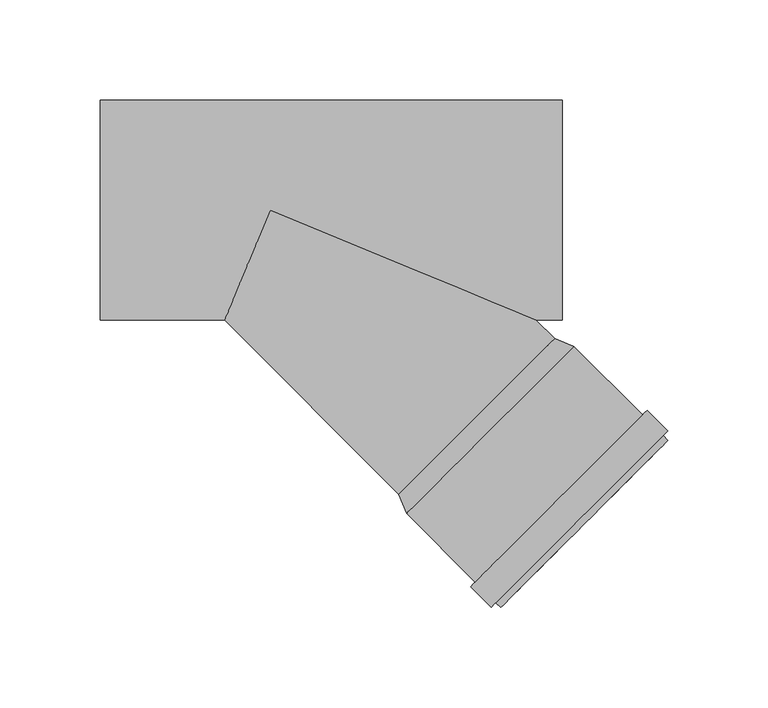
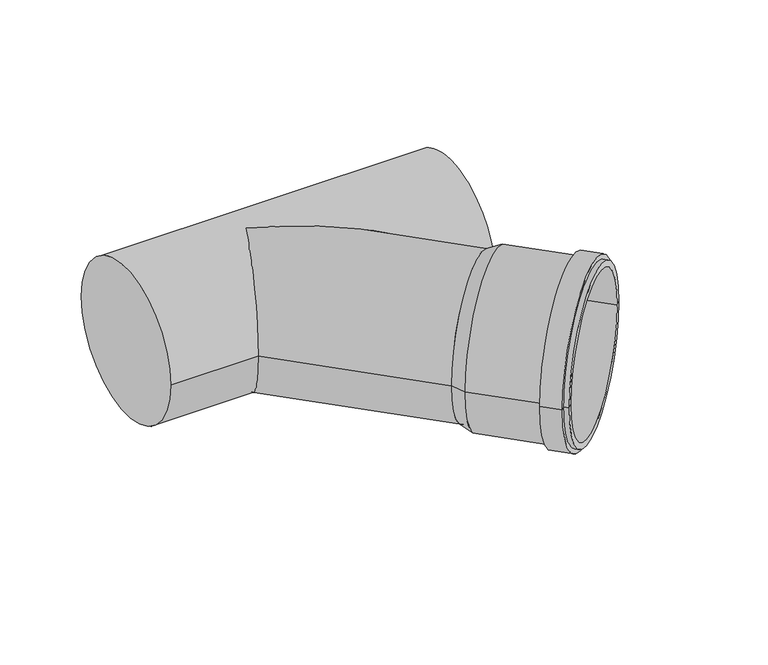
"""IFC4 building model written with IfcOpenShell, lengths in millimetres: pipe fitting geometry, pf_HTEA : pf_HTEA."""

import ifcopenshell
import ifcopenshell.guid

model = None  # the IFC model being written
_history = None  # IfcOwnerHistory: only IFC2X3 demands one
_inside = {}  # id of a spatial element -> (the spatial element, [elements in it])
_under = {}  # id of a project, library or spatial element -> (it, [spatial elements below it])
_declared = {}  # id of a project -> (the project, [libraries it declares])
_typed = {}  # id of a type object -> (the type object, [elements of that type])
_made_of = {}  # id of a material, layer set ... -> (it, [elements and type objects made of it])


def new_model(schema):
    """Start an empty IFC model of exactly this schema.

    Asked for "IFC4X3", IfcOpenShell would pick the latest addendum, in which some entities
    have other attributes; the version numbers below select the first issue.
    IFC2X3 requires an IfcOwnerHistory on every rooted entity: one is made here for all.
    """
    global model, _history
    if schema == "IFC4X3":
        model = ifcopenshell.file(schema_version=(4, 3, 0, 0))
    else:
        model = ifcopenshell.file(schema=schema)
    _inside.clear()
    _under.clear()
    _declared.clear()
    _typed.clear()
    _made_of.clear()
    _history = None
    if model.schema == "IFC2X3":
        org = make("IfcOrganization", Name="unknown")
        user = make(
            "IfcPersonAndOrganization",
            ThePerson=make("IfcPerson", FamilyName="unknown"),
            TheOrganization=org,
        )
        app = make(
            "IfcApplication",
            ApplicationDeveloper=org,
            Version="unknown",
            ApplicationFullName="unknown",
            ApplicationIdentifier="unknown",
        )
        _history = make(
            "IfcOwnerHistory",
            OwningUser=user,
            OwningApplication=app,
            ChangeAction="ADDED",
            CreationDate=0,
        )
    return model


def make(cls, **values):
    """One entity of the class cls with the attributes given. An attribute that is None is left unset."""
    return model.create_entity(
        cls, **{name: value for name, value in values.items() if value is not None}
    )


def rooted(cls, **values):
    """An entity with a GlobalId (a new one), such as an element, a storey or a relation."""
    return make(cls, GlobalId=ifcopenshell.guid.new(), OwnerHistory=_history, **values)


def si_unit(unit_type, name, prefix=None):
    """IfcSIUnit, for example si_unit("LENGTHUNIT", "METRE", prefix="MILLI")."""
    return make("IfcSIUnit", UnitType=unit_type, Prefix=prefix, Name=name)


def assignment(units):
    """IfcUnitAssignment: the units of a project."""
    return None if units is None else make("IfcUnitAssignment", Units=units)


def point(xyz):
    """IfcCartesianPoint."""
    return None if xyz is None else make("IfcCartesianPoint", Coordinates=xyz)


def direction(xyz):
    """IfcDirection."""
    return None if xyz is None else make("IfcDirection", DirectionRatios=xyz)


def frame(location, z_axis=None, x_axis=None):
    """IfcAxis2Placement3D, a coordinate frame: its origin and axes. An axis left out is left unset."""
    return make(
        "IfcAxis2Placement3D",
        Location=point(location),
        Axis=direction(z_axis),
        RefDirection=direction(x_axis),
    )


def origin():
    """The frame at (0, 0, 0) with its axes left unset."""
    return frame((0.0, 0.0, 0.0))


def place(relative_to, where):
    """IfcLocalPlacement: puts the frame where relative to a parent placement (None: the world)."""
    return make(
        "IfcLocalPlacement", PlacementRelTo=relative_to, RelativePlacement=where
    )


def context(
    kind, dimensions, precision=None, world=None, true_north=None, identifier=None
):
    """IfcGeometricRepresentationContext, for example the 3D "Model" context."""
    return make(
        "IfcGeometricRepresentationContext",
        ContextIdentifier=identifier,
        ContextType=kind,
        CoordinateSpaceDimension=dimensions,
        Precision=precision,
        WorldCoordinateSystem=world,
        TrueNorth=true_north,
    )


def project(units=None, contexts=None):
    """IfcProject with its units and contexts."""
    return rooted(
        "IfcProject",
        Name="project",
        RepresentationContexts=contexts,
        UnitsInContext=assignment(units),
    )


def spatial(cls, under=None, at=None, **own):
    """A site, building, storey or space (cls), placed at a placement, below another one or the project."""
    s = rooted(cls, ObjectPlacement=at, **own)
    if under is not None:
        _under.setdefault(under.id(), (under, []))[1].append(s)
    return s


def polyline(points):
    """IfcPolyline through the points."""
    return make("IfcPolyline", Points=[point(p) for p in points])


def circle_curve(where, radius):
    """IfcCircle in the frame where."""
    return make("IfcCircle", Position=where, Radius=radius)


def ellipse_curve(where, semi_axis1, semi_axis2):
    """IfcEllipse in the frame where."""
    return make(
        "IfcEllipse", Position=where, SemiAxis1=semi_axis1, SemiAxis2=semi_axis2
    )


def shape(context_of_items, identifier, shape_type, items):
    """IfcShapeRepresentation: the items that make up one representation, for example the "Body"."""
    return make(
        "IfcShapeRepresentation",
        ContextOfItems=context_of_items,
        RepresentationIdentifier=identifier,
        RepresentationType=shape_type,
        Items=items,
    )


def source(mapping_origin, context_of_items, identifier, shape_type, items):
    """IfcRepresentationMap: a shape defined once, which mapped items show again and again."""
    return make(
        "IfcRepresentationMap",
        MappingOrigin=mapping_origin,
        MappedRepresentation=shape(context_of_items, identifier, shape_type, items),
    )


def transform(
    local_origin,
    x_axis=None,
    y_axis=None,
    z_axis=None,
    scale=None,
    scale2=None,
    scale3=None,
    uniform=True,
):
    """IfcCartesianTransformationOperator3D, or its non-uniform kind. x_axis, y_axis, z_axis: its Axis1, 2, 3."""
    if uniform:
        return make(
            "IfcCartesianTransformationOperator3D",
            Axis1=direction(x_axis),
            Axis2=direction(y_axis),
            LocalOrigin=point(local_origin),
            Scale=scale,
            Axis3=direction(z_axis),
        )
    return make(
        "IfcCartesianTransformationOperator3DnonUniform",
        Axis1=direction(x_axis),
        Axis2=direction(y_axis),
        LocalOrigin=point(local_origin),
        Scale=scale,
        Axis3=direction(z_axis),
        Scale2=scale2,
        Scale3=scale3,
    )


def mapped(mapping_source, mapping_target):
    """IfcMappedItem: shows the shape of a source again, moved by a transform."""
    return make(
        "IfcMappedItem", MappingSource=mapping_source, MappingTarget=mapping_target
    )


def made_of(thing, what):
    """Note that an element or type object is made of a material, layer set ...; save() writes the relation."""
    if what is not None:
        _made_of.setdefault(what.id(), (what, []))[1].append(thing)
    return thing


def element(
    cls,
    number,
    at=None,
    inside=None,
    cuts=None,
    type_object=None,
    material=None,
    context=None,
    identifier="Body",
    shape_type=None,
    held_by="IfcProductDefinitionShape",
    body=None,
    shapes=None,
    **own,
):
    """One element of the class cls, such as IfcWall. Its Tag is "e" and its number.

    at: its placement. inside: the storey or other place that contains it. cuts: it is an
    opening in that element (IfcRelVoidsElement). A single representation is given by context,
    identifier, shape_type and body (its items); several are given by shapes. held_by: the class
    of the entity that holds the representations. save() writes the other relations.
    """
    e = rooted(cls, Tag="e%d" % number, ObjectPlacement=at, **own)
    if body is not None:
        shapes = [shape(context, identifier, shape_type, body)]
    if shapes is not None:
        e.Representation = make(held_by, Representations=shapes)
    if inside is not None:
        _inside.setdefault(inside.id(), (inside, []))[1].append(e)
    if cuts is not None:
        rooted(
            "IfcRelVoidsElement", RelatingBuildingElement=cuts, RelatedOpeningElement=e
        )
    if type_object is not None:
        _typed.setdefault(type_object.id(), (type_object, []))[1].append(e)
    return made_of(e, material)


def aggregate(whole, parts):
    """IfcRelAggregates: a whole, such as a stair, and the parts it consists of."""
    return rooted("IfcRelAggregates", RelatingObject=whole, RelatedObjects=parts)


def save(model, path):
    """Write the relations noted so far, then the file.

    IfcRelAggregates (storeys below a building ...), IfcRelContainedInSpatialStructure (elements
    in a storey), IfcRelDefinesByType, IfcRelAssociatesMaterial and IfcRelDeclares: one each for
    every whole, place, type object, material and project.
    """
    for whole, parts in _under.values():
        aggregate(whole, parts)
    for where, things in _inside.values():
        rooted(
            "IfcRelContainedInSpatialStructure",
            RelatedElements=things,
            RelatingStructure=where,
        )
    for kind, things in _typed.values():
        rooted("IfcRelDefinesByType", RelatedObjects=things, RelatingType=kind)
    for what, things in _made_of.values():
        rooted("IfcRelAssociatesMaterial", RelatedObjects=things, RelatingMaterial=what)
    for by, libraries in _declared.values():
        rooted("IfcRelDeclares", RelatingContext=by, RelatedDefinitions=libraries)
    model.write(path)


def plane_surface(at):
    """IfcPlane: the flat surface through the origin of the frame at, square to its z axis."""
    return make("IfcPlane", Position=at)


def cylinder_surface(at, radius):
    """IfcCylindricalSurface: all points at the distance radius from the z axis of the frame at."""
    return make("IfcCylindricalSurface", Position=at, Radius=radius)


def revolved_surface(curve, axis_point, axis_direction):
    """IfcSurfaceOfRevolution: the curve turned about the line through axis_point along axis_direction."""
    return make(
        "IfcSurfaceOfRevolution",
        SweptCurve=make("IfcArbitraryOpenProfileDef", ProfileType="CURVE", Curve=curve),
        AxisPosition=make("IfcAxis1Placement", Location=point(axis_point), Axis=direction(axis_direction)),
    )


def advanced_brep(points, edges, surfaces, faces):
    """IfcAdvancedBrep: a solid bounded by faces that lie on surfaces and meet in shared edges.

    An edge is (start, end): straight between two places in points (the first is 0);
    or (start, end, curve); or (start, end, curve, False) where it runs against its curve.
    A face is (place in surfaces, loops), or (place, loops, False) where it looks against
    its surface's normal. A loop lists edges by number (the first is 1), with a minus sign
    where the edge is run from its end to its start. The first loop is the outer one.
    """
    corners = [point(p) for p in points]
    vertices = [make("IfcVertexPoint", VertexGeometry=c) for c in corners]
    made = []
    for start, end, *more in edges:
        made.append(
            make(
                "IfcEdgeCurve",
                EdgeStart=vertices[start],
                EdgeEnd=vertices[end],
                EdgeGeometry=more[0] if more else make("IfcPolyline", Points=[corners[start], corners[end]]),
                SameSense=more[1] if len(more) > 1 else True,
            )
        )
    hull = []
    for where, loops, *sense in faces:
        bounds = []
        for j, loop in enumerate(loops):
            ring = [make("IfcOrientedEdge", EdgeElement=made[abs(k) - 1], Orientation=k > 0) for k in loop]
            bounds.append(
                make(
                    "IfcFaceOuterBound" if j == 0 else "IfcFaceBound",
                    Bound=make("IfcEdgeLoop", EdgeList=ring),
                    Orientation=True,
                )
            )
        hull.append(make("IfcAdvancedFace", Bounds=bounds, FaceSurface=surfaces[where], SameSense=sense[0] if sense else True))
    return make("IfcAdvancedBrep", Outer=make("IfcClosedShell", CfsFaces=hull))


def pipe_fitting_5465bcce(model_context):
    return source(origin(), model_context, "Body", "AdvancedBrep", [
        advanced_brep(
        [(64.3467171, -142.128463, 0.0), (142.128463, -64.3467171, 0.0), (151.7451152, -68.1650937, 0.0), (68.1650937, -151.7451152, 0.0), (103.2375901, -103.2375901, 0.0), (115.1876947, -198.7677162, 0.0), (198.7677162, -115.1876947, 0.0), (195.8685784, -118.0868325, 0.0), (118.0868325, -195.8685784, 0.0), (112.7835316, -196.3635531, 0.0), (196.3635531, -112.7835316, 0.0), (110.3793685, -198.7677162, 0.0), (198.7677162, -110.3793685, 0.0), (100.1263202, -188.5146679, 0.0), (188.5146679, -100.1263202, 0.0), (102.5304833, -186.1105048, 0.0), (186.1105048, -102.5304833, 0.0), (71.0642315, -148.8459774, 0.0), (148.8459774, -71.0642315, 0.0), (109.9551045, -109.9551045, 0.0)],
        [
            (0, 1, circle_curve(frame((103.2375901, -103.2375901, 0.0), z_axis=(0.7071067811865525, -0.7071067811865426, 0.0), x_axis=(0.7071067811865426, 0.7071067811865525, 0.0)), 55.0)),
            (1, 2),
            (2, 3, circle_curve(frame((109.9551045, -109.9551045, 0.0), z_axis=(-0.7071067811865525, 0.7071067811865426, 0.0), x_axis=(0.7071067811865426, 0.7071067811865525, 0.0)), 59.1)),
            (3, 0),
            (1, 0, circle_curve(frame((103.2375901, -103.2375901, 0.0), z_axis=(0.7071067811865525, -0.7071067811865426, 0.0), x_axis=(0.7071067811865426, 0.7071067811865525, 0.0)), 55.0)),
            (3, 2, circle_curve(frame((109.9551045, -109.9551045, 0.0), z_axis=(-0.7071067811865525, 0.7071067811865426, 0.0), x_axis=(0.7071067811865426, 0.7071067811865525, 0.0)), 59.1)),
            (4, 1),
            (0, 4),
            (5, 6, circle_curve(frame((156.9777054, -156.9777054, 0.0), z_axis=(0.7071067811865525, -0.7071067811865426, 0.0), x_axis=(0.7071067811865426, 0.7071067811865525, 0.0)), 59.1)),
            (6, 7),
            (7, 8, circle_curve(frame((156.9777054, -156.9777054, 0.0), z_axis=(-0.7071067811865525, 0.7071067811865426, 0.0), x_axis=(0.7071067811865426, 0.7071067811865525, 0.0)), 55.0)),
            (8, 5),
            (6, 5, circle_curve(frame((156.9777054, -156.9777054, 0.0), z_axis=(0.7071067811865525, -0.7071067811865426, 0.0), x_axis=(0.7071067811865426, 0.7071067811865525, 0.0)), 59.1)),
            (8, 7, circle_curve(frame((156.9777054, -156.9777054, 0.0), z_axis=(-0.7071067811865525, 0.7071067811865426, 0.0), x_axis=(0.7071067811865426, 0.7071067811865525, 0.0)), 55.0)),
            (9, 10, circle_curve(frame((154.5735424, -154.5735424, 0.0), z_axis=(0.7071067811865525, -0.7071067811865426, 0.0), x_axis=(0.7071067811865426, 0.7071067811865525, 0.0)), 59.1)),
            (10, 6),
            (5, 9),
            (10, 9, circle_curve(frame((154.5735424, -154.5735424, 0.0), z_axis=(0.7071067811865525, -0.7071067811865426, 0.0), x_axis=(0.7071067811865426, 0.7071067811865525, 0.0)), 59.1)),
            (11, 12, circle_curve(frame((154.5735424, -154.5735424, 0.0), z_axis=(0.7071067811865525, -0.7071067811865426, 0.0), x_axis=(0.7071067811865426, 0.7071067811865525, 0.0)), 62.5)),
            (12, 10),
            (9, 11),
            (12, 11, circle_curve(frame((154.5735424, -154.5735424, 0.0), z_axis=(0.7071067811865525, -0.7071067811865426, 0.0), x_axis=(0.7071067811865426, 0.7071067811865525, 0.0)), 62.5)),
            (13, 14, circle_curve(frame((144.320494, -144.320494, 0.0), z_axis=(0.7071067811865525, -0.7071067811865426, 0.0), x_axis=(0.7071067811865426, 0.7071067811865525, 0.0)), 62.5)),
            (14, 12),
            (11, 13),
            (14, 13, circle_curve(frame((144.320494, -144.320494, 0.0), z_axis=(0.7071067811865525, -0.7071067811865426, 0.0), x_axis=(0.7071067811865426, 0.7071067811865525, 0.0)), 62.5)),
            (15, 16, circle_curve(frame((144.320494, -144.320494, 0.0), z_axis=(0.7071067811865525, -0.7071067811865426, 0.0), x_axis=(0.7071067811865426, 0.7071067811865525, 0.0)), 59.1)),
            (16, 14),
            (13, 15),
            (16, 15, circle_curve(frame((144.320494, -144.320494, 0.0), z_axis=(0.7071067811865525, -0.7071067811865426, 0.0), x_axis=(0.7071067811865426, 0.7071067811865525, 0.0)), 59.1)),
            (2, 16),
            (15, 3),
            (17, 18, circle_curve(frame((109.9551045, -109.9551045, 0.0), z_axis=(0.7071067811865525, -0.7071067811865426, 0.0), x_axis=(0.7071067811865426, 0.7071067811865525, 0.0)), 55.0)),
            (18, 19),
            (19, 17),
            (18, 17, circle_curve(frame((109.9551045, -109.9551045, 0.0), z_axis=(0.7071067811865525, -0.7071067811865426, 0.0), x_axis=(0.7071067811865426, 0.7071067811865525, 0.0)), 55.0)),
            (7, 18),
            (17, 8),
        ],
        [
            revolved_surface(polyline([(151.7451152, -68.1650937, 0.0), (142.128463, -64.3467171, 0.0)]), (103.2375901, -103.2375901, 0.0), (-0.7071067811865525, 0.7071067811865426, 0.0)),
            plane_surface(frame((103.2375901, -103.2375901, 0.0), z_axis=(-0.7071067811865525, 0.7071067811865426, 0.0), x_axis=(0.7071067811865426, 0.7071067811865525, 0.0))),
            plane_surface(frame((156.9777054, -156.9777054, 0.0), z_axis=(0.7071067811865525, -0.7071067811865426, 0.0), x_axis=(0.7071067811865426, 0.7071067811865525, 0.0))),
            cylinder_surface(frame((103.2375901, -103.2375901, 0.0), z_axis=(-0.7071067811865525, 0.7071067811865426, 0.0), x_axis=(0.7071067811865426, 0.7071067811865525, 0.0)), 59.1),
            plane_surface(frame((154.5735424, -154.5735424, 0.0), z_axis=(0.7071067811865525, -0.7071067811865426, 0.0), x_axis=(0.7071067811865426, 0.7071067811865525, 0.0))),
            cylinder_surface(frame((103.2375901, -103.2375901, 0.0), z_axis=(-0.7071067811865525, 0.7071067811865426, 0.0), x_axis=(0.7071067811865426, 0.7071067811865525, 0.0)), 62.5),
            plane_surface(frame((144.320494, -144.320494, 0.0), z_axis=(-0.7071067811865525, 0.7071067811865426, 0.0), x_axis=(0.7071067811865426, 0.7071067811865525, 0.0))),
            plane_surface(frame((109.9551045, -109.9551045, 0.0), z_axis=(0.7071067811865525, -0.7071067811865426, 0.0), x_axis=(0.7071067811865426, 0.7071067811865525, 0.0))),
            revolved_surface(polyline([(148.84597741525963, -71.0642314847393, 0.0), (195.86857841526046, -118.0868324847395, 0.0)]), (103.2375901, -103.2375901, 0.0), (-0.7071067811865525, 0.7071067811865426, 0.0)),
        ],
        [
            (0, [[1, 2, 3, 4]]),
            (0, [[5, -4, 6, -2]]),
            (1, [[7, -1, 8]]),
            (1, [[-8, -5, -7]]),
            (2, [[9, 10, 11, 12]]),
            (2, [[13, -12, 14, -10]]),
            (3, [[15, 16, -9, 17]]),
            (3, [[18, -17, -13, -16]]),
            (4, [[19, 20, -15, 21]]),
            (4, [[22, -21, -18, -20]]),
            (5, [[23, 24, -19, 25]]),
            (5, [[26, -25, -22, -24]]),
            (6, [[27, 28, -23, 29]]),
            (6, [[30, -29, -26, -28]]),
            (3, [[-3, 31, -27, 32]]),
            (3, [[-6, -32, -30, -31]]),
            (7, [[33, 34, 35]]),
            (7, [[36, -35, -34]]),
            (8, [[-11, 37, -33, 38]]),
            (8, [[-14, -38, -36, -37]]),
        ],
    ),
        advanced_brep(
        [(64.3467171, -142.128463, 0.0), (142.128463, -64.3467171, 0.0), (-85.0, -55.0, 0.0), (-85.0, 55.0, 0.0), (146.0, -55.0, 0.0), (146.0, 55.0, 0.0), (-22.7817459, -55.0, 0.0), (0.0, 0.0, 55.0), (132.7817459, -55.0, 0.0), (0.0, 0.0, -55.0)],
        [
            (0, 1, circle_curve(frame((103.2375901, -103.2375901, 0.0), z_axis=(0.7071067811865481, -0.7071067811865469, 0.0), x_axis=(0.7071067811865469, 0.7071067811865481, 0.0)), 55.0)),
            (1, 0, circle_curve(frame((103.2375901, -103.2375901, 0.0), z_axis=(0.7071067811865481, -0.7071067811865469, 0.0), x_axis=(0.7071067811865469, 0.7071067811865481, 0.0)), 55.0)),
            (2, 3, circle_curve(frame((-85.0, 0.0, 0.0), z_axis=(-1.0, 0.0, 0.0), x_axis=(0.0, 1.0, 0.0)), 55.0)),
            (3, 2, circle_curve(frame((-85.0, 0.0, 0.0), z_axis=(-1.0, 0.0, 0.0), x_axis=(0.0, 1.0, 0.0)), 55.0)),
            (4, 5, circle_curve(frame((146.0, 0.0, 0.0), z_axis=(1.0, 0.0, 0.0), x_axis=(0.0, 1.0, 0.0)), 55.0)),
            (5, 4, circle_curve(frame((146.0, 0.0, 0.0), z_axis=(1.0, 0.0, 0.0), x_axis=(0.0, 1.0, 0.0)), 55.0)),
            (2, 6),
            (6, 7, ellipse_curve(frame((0.0, 0.0, 0.0), z_axis=(-0.923879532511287, 0.3826834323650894, 0.0), x_axis=(-0.3826834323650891, -0.9238795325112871, 0.0)), 59.531571, 55.0)),
            (7, 8, ellipse_curve(frame((0.0, 0.0, 0.0), z_axis=(0.3826834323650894, 0.923879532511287, 0.0), x_axis=(-0.923879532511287, 0.38268343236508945, 0.0)), 143.7219261, 55.0)),
            (8, 4),
            (5, 3),
            (8, 9, ellipse_curve(frame((0.0, 0.0, 0.0), z_axis=(0.3826834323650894, 0.923879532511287, 0.0), x_axis=(-0.923879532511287, 0.38268343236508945, 0.0)), 143.7219261, 55.0)),
            (9, 6, ellipse_curve(frame((0.0, 0.0, 0.0), z_axis=(-0.923879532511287, 0.3826834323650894, 0.0), x_axis=(-0.3826834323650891, -0.9238795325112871, 0.0)), 59.531571, 55.0)),
            (1, 8),
            (6, 0),
        ],
        [
            plane_surface(frame((103.2375901, -103.2375901, 0.0), z_axis=(0.7071067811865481, -0.7071067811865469, 0.0), x_axis=(0.0, 0.0, 1.0))),
            plane_surface(frame((-85.0, 0.0, 0.0), z_axis=(-1.0, 0.0, 0.0), x_axis=(0.0, 0.0, 1.0))),
            plane_surface(frame((146.0, 0.0, 0.0), z_axis=(1.0, 0.0, 0.0), x_axis=(0.0, 0.0, 1.0))),
            cylinder_surface(frame((-85.0, 0.0, 0.0), z_axis=(-1.0, 0.0, 0.0), x_axis=(0.0, 1.0, 0.0)), 55.0),
            cylinder_surface(frame((0.0, 0.0, 0.0), z_axis=(-0.7071067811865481, 0.7071067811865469, 0.0), x_axis=(0.7071067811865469, 0.7071067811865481, 0.0)), 55.0),
        ],
        [
            (0, [[1, 2]]),
            (1, [[3, 4]]),
            (2, [[5, 6]]),
            (3, [[-3, 7, 8, 9, 10, -6, 11]]),
            (3, [[-4, -11, -5, -10, 12, 13, -7]]),
            (4, [[-2, 14, -9, -8, 15]]),
            (4, [[-1, -15, -13, -12, -14]]),
        ],
    ),
    ])


if __name__ == "__main__":
    model = new_model("IFC4")
    model_context = context("Model", 3, world=origin())
    ifc_project = project(units=[si_unit("LENGTHUNIT", "METRE", prefix="MILLI")], contexts=[model_context])
    site = spatial("IfcSite", under=ifc_project)
    building = spatial("IfcBuilding", under=site)
    placement = place(None, origin())
    pipe_fitting_shape = pipe_fitting_5465bcce(model_context)
    element("IfcPipeFitting", 1, ObjectType="pf_HTEA : pf_HTEA", at=placement, inside=building, context=model_context, shape_type="MappedRepresentation", body=[
        mapped(pipe_fitting_shape, transform((0.0, 0.0, 0.0), x_axis=(1.0, 0.0, 0.0), y_axis=(0.0, 1.0, 0.0), z_axis=(0.0, 0.0, 1.0))),
    ])
    save(model, "model.ifc")
